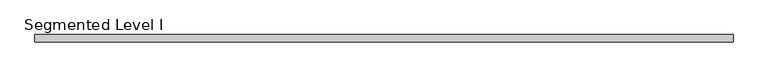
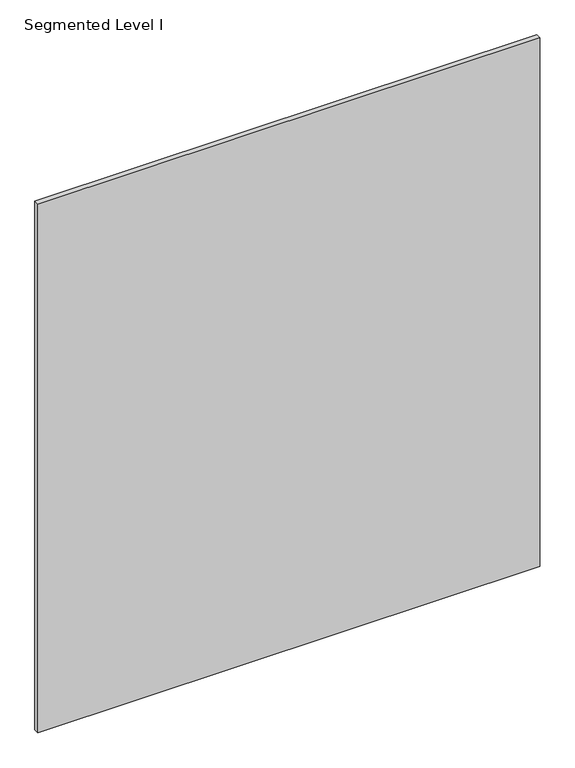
"""IFC4 building model written with IfcOpenShell, lengths in millimetres: proxy geometry, Panel-Fascia-Teknion-Altos-Standard : Segmented Level I."""

import ifcopenshell
import ifcopenshell.guid

model = None  # the IFC model being written
_history = None  # IfcOwnerHistory: only IFC2X3 demands one
_inside = {}  # id of a spatial element -> (the spatial element, [elements in it])
_under = {}  # id of a project, library or spatial element -> (it, [spatial elements below it])
_declared = {}  # id of a project -> (the project, [libraries it declares])
_typed = {}  # id of a type object -> (the type object, [elements of that type])
_made_of = {}  # id of a material, layer set ... -> (it, [elements and type objects made of it])


def new_model(schema):
    """Start an empty IFC model of exactly this schema.

    Asked for "IFC4X3", IfcOpenShell would pick the latest addendum, in which some entities
    have other attributes; the version numbers below select the first issue.
    IFC2X3 requires an IfcOwnerHistory on every rooted entity: one is made here for all.
    """
    global model, _history
    if schema == "IFC4X3":
        model = ifcopenshell.file(schema_version=(4, 3, 0, 0))
    else:
        model = ifcopenshell.file(schema=schema)
    _inside.clear()
    _under.clear()
    _declared.clear()
    _typed.clear()
    _made_of.clear()
    _history = None
    if model.schema == "IFC2X3":
        org = make("IfcOrganization", Name="unknown")
        user = make(
            "IfcPersonAndOrganization",
            ThePerson=make("IfcPerson", FamilyName="unknown"),
            TheOrganization=org,
        )
        app = make(
            "IfcApplication",
            ApplicationDeveloper=org,
            Version="unknown",
            ApplicationFullName="unknown",
            ApplicationIdentifier="unknown",
        )
        _history = make(
            "IfcOwnerHistory",
            OwningUser=user,
            OwningApplication=app,
            ChangeAction="ADDED",
            CreationDate=0,
        )
    return model


def make(cls, **values):
    """One entity of the class cls with the attributes given. An attribute that is None is left unset."""
    return model.create_entity(
        cls, **{name: value for name, value in values.items() if value is not None}
    )


def rooted(cls, **values):
    """An entity with a GlobalId (a new one), such as an element, a storey or a relation."""
    return make(cls, GlobalId=ifcopenshell.guid.new(), OwnerHistory=_history, **values)


def si_unit(unit_type, name, prefix=None):
    """IfcSIUnit, for example si_unit("LENGTHUNIT", "METRE", prefix="MILLI")."""
    return make("IfcSIUnit", UnitType=unit_type, Prefix=prefix, Name=name)


def assignment(units):
    """IfcUnitAssignment: the units of a project."""
    return None if units is None else make("IfcUnitAssignment", Units=units)


def point(xyz):
    """IfcCartesianPoint."""
    return None if xyz is None else make("IfcCartesianPoint", Coordinates=xyz)


def direction(xyz):
    """IfcDirection."""
    return None if xyz is None else make("IfcDirection", DirectionRatios=xyz)


def frame(location, z_axis=None, x_axis=None):
    """IfcAxis2Placement3D, a coordinate frame: its origin and axes. An axis left out is left unset."""
    return make(
        "IfcAxis2Placement3D",
        Location=point(location),
        Axis=direction(z_axis),
        RefDirection=direction(x_axis),
    )


def origin():
    """The frame at (0, 0, 0) with its axes left unset."""
    return frame((0.0, 0.0, 0.0))


def place(relative_to, where):
    """IfcLocalPlacement: puts the frame where relative to a parent placement (None: the world)."""
    return make(
        "IfcLocalPlacement", PlacementRelTo=relative_to, RelativePlacement=where
    )


def context(
    kind, dimensions, precision=None, world=None, true_north=None, identifier=None
):
    """IfcGeometricRepresentationContext, for example the 3D "Model" context."""
    return make(
        "IfcGeometricRepresentationContext",
        ContextIdentifier=identifier,
        ContextType=kind,
        CoordinateSpaceDimension=dimensions,
        Precision=precision,
        WorldCoordinateSystem=world,
        TrueNorth=true_north,
    )


def project(units=None, contexts=None):
    """IfcProject with its units and contexts."""
    return rooted(
        "IfcProject",
        Name="project",
        RepresentationContexts=contexts,
        UnitsInContext=assignment(units),
    )


def spatial(cls, under=None, at=None, **own):
    """A site, building, storey or space (cls), placed at a placement, below another one or the project."""
    s = rooted(cls, ObjectPlacement=at, **own)
    if under is not None:
        _under.setdefault(under.id(), (under, []))[1].append(s)
    return s


def polyline(points):
    """IfcPolyline through the points."""
    return make("IfcPolyline", Points=[point(p) for p in points])


def outline(outer, holes=None, kind="AREA"):
    """IfcArbitraryClosedProfileDef: a profile drawn as a closed curve; with holes, ...WithVoids."""
    if holes is None:
        return make("IfcArbitraryClosedProfileDef", ProfileType=kind, OuterCurve=outer)
    return make(
        "IfcArbitraryProfileDefWithVoids",
        ProfileType=kind,
        OuterCurve=outer,
        InnerCurves=holes,
    )


def extrude(swept, where, along, depth):
    """IfcExtrudedAreaSolid: the profile swept, set in the frame where, extruded along a direction by depth."""
    return make(
        "IfcExtrudedAreaSolid",
        SweptArea=swept,
        Position=where,
        ExtrudedDirection=direction(along),
        Depth=depth,
    )


def shape(context_of_items, identifier, shape_type, items):
    """IfcShapeRepresentation: the items that make up one representation, for example the "Body"."""
    return make(
        "IfcShapeRepresentation",
        ContextOfItems=context_of_items,
        RepresentationIdentifier=identifier,
        RepresentationType=shape_type,
        Items=items,
    )


def source(mapping_origin, context_of_items, identifier, shape_type, items):
    """IfcRepresentationMap: a shape defined once, which mapped items show again and again."""
    return make(
        "IfcRepresentationMap",
        MappingOrigin=mapping_origin,
        MappedRepresentation=shape(context_of_items, identifier, shape_type, items),
    )


def transform(
    local_origin,
    x_axis=None,
    y_axis=None,
    z_axis=None,
    scale=None,
    scale2=None,
    scale3=None,
    uniform=True,
):
    """IfcCartesianTransformationOperator3D, or its non-uniform kind. x_axis, y_axis, z_axis: its Axis1, 2, 3."""
    if uniform:
        return make(
            "IfcCartesianTransformationOperator3D",
            Axis1=direction(x_axis),
            Axis2=direction(y_axis),
            LocalOrigin=point(local_origin),
            Scale=scale,
            Axis3=direction(z_axis),
        )
    return make(
        "IfcCartesianTransformationOperator3DnonUniform",
        Axis1=direction(x_axis),
        Axis2=direction(y_axis),
        LocalOrigin=point(local_origin),
        Scale=scale,
        Axis3=direction(z_axis),
        Scale2=scale2,
        Scale3=scale3,
    )


def mapped(mapping_source, mapping_target):
    """IfcMappedItem: shows the shape of a source again, moved by a transform."""
    return make(
        "IfcMappedItem", MappingSource=mapping_source, MappingTarget=mapping_target
    )


def made_of(thing, what):
    """Note that an element or type object is made of a material, layer set ...; save() writes the relation."""
    if what is not None:
        _made_of.setdefault(what.id(), (what, []))[1].append(thing)
    return thing


def element(
    cls,
    number,
    at=None,
    inside=None,
    cuts=None,
    type_object=None,
    material=None,
    context=None,
    identifier="Body",
    shape_type=None,
    held_by="IfcProductDefinitionShape",
    body=None,
    shapes=None,
    **own,
):
    """One element of the class cls, such as IfcWall. Its Tag is "e" and its number.

    at: its placement. inside: the storey or other place that contains it. cuts: it is an
    opening in that element (IfcRelVoidsElement). A single representation is given by context,
    identifier, shape_type and body (its items); several are given by shapes. held_by: the class
    of the entity that holds the representations. save() writes the other relations.
    """
    e = rooted(cls, Tag="e%d" % number, ObjectPlacement=at, **own)
    if body is not None:
        shapes = [shape(context, identifier, shape_type, body)]
    if shapes is not None:
        e.Representation = make(held_by, Representations=shapes)
    if inside is not None:
        _inside.setdefault(inside.id(), (inside, []))[1].append(e)
    if cuts is not None:
        rooted(
            "IfcRelVoidsElement", RelatingBuildingElement=cuts, RelatedOpeningElement=e
        )
    if type_object is not None:
        _typed.setdefault(type_object.id(), (type_object, []))[1].append(e)
    return made_of(e, material)


def aggregate(whole, parts):
    """IfcRelAggregates: a whole, such as a stair, and the parts it consists of."""
    return rooted("IfcRelAggregates", RelatingObject=whole, RelatedObjects=parts)


def save(model, path):
    """Write the relations noted so far, then the file.

    IfcRelAggregates (storeys below a building ...), IfcRelContainedInSpatialStructure (elements
    in a storey), IfcRelDefinesByType, IfcRelAssociatesMaterial and IfcRelDeclares: one each for
    every whole, place, type object, material and project.
    """
    for whole, parts in _under.values():
        aggregate(whole, parts)
    for where, things in _inside.values():
        rooted(
            "IfcRelContainedInSpatialStructure",
            RelatedElements=things,
            RelatingStructure=where,
        )
    for kind, things in _typed.values():
        rooted("IfcRelDefinesByType", RelatedObjects=things, RelatingType=kind)
    for what, things in _made_of.values():
        rooted("IfcRelAssociatesMaterial", RelatedObjects=things, RelatingMaterial=what)
    for by, libraries in _declared.values():
        rooted("IfcRelDeclares", RelatingContext=by, RelatedDefinitions=libraries)
    model.write(path)


def segmented_level_i_812e5143(model_context):
    return source(origin(), model_context, "Body", "SweptSolid", [
        extrude(outline(polyline([(911.225, -9.525), (-911.225, -9.525), (-911.225, 9.525), (911.225, 9.525), (911.225, -9.525)])), frame((0.0, 0.0, 3.175), z_axis=(0.0, 0.0, 1.0), x_axis=(1.0, 0.0, 0.0)), (0.0, 0.0, 1.0), 2029.968),
    ])


if __name__ == "__main__":
    model = new_model("IFC4")
    model_context = context("Model", 3, world=origin())
    ifc_project = project(units=[si_unit("LENGTHUNIT", "METRE", prefix="MILLI")], contexts=[model_context])
    site = spatial("IfcSite", under=ifc_project)
    building = spatial("IfcBuilding", under=site)
    placement = place(None, origin())
    segmented_level_i_shape = segmented_level_i_812e5143(model_context)
    element("IfcBuildingElementProxy", 1, Name="Panel-Fascia-Teknion-Altos-Standard : Segmented Level I", ObjectType="Panel-Fascia-Teknion-Altos-Standard : Segmented Level I", at=placement, inside=building, context=model_context, shape_type="MappedRepresentation", body=[
        mapped(segmented_level_i_shape, transform((0.0, 0.0, 0.0), x_axis=(1.0, 0.0, 0.0), y_axis=(0.0, 1.0, 0.0), z_axis=(0.0, 0.0, 1.0))),
    ])
    save(model, "model.ifc")
